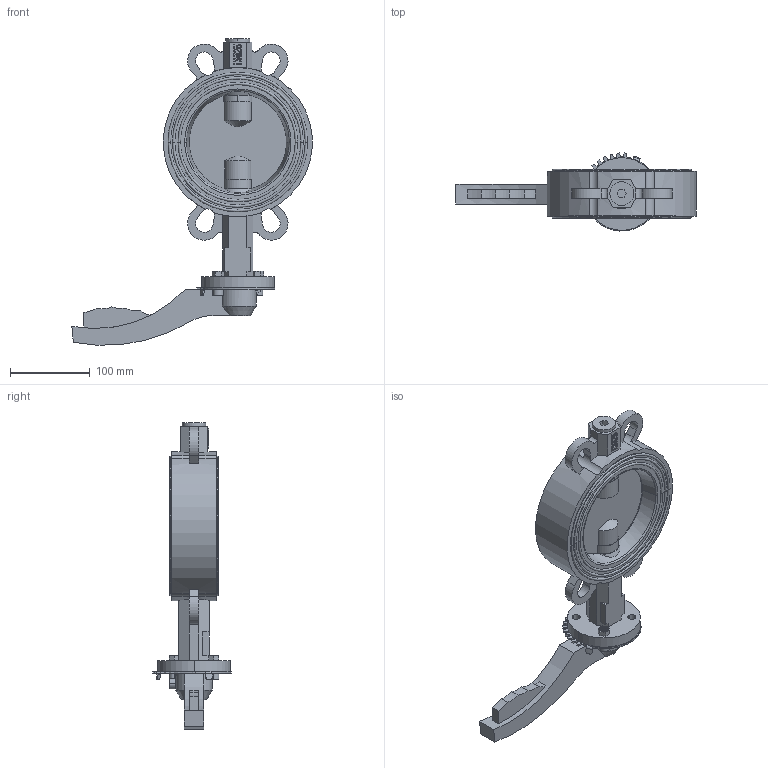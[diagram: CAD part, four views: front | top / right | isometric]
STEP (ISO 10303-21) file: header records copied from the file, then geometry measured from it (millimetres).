
FILE_DESCRIPTION((''),'2;1');
FILE_NAME('SB_RUCHKA_ASM','2023-12-24T',('DIMA'),(''),'PRO/ENGINEER BY PARAMETRIC TECHNOLOGY CORPORATION, 2008020','PRO/ENGINEER BY PARAMETRIC TECHNOLOGY CORPORATION, 2008020','');
FILE_SCHEMA(('CONFIG_CONTROL_DESIGN'));
Length unit declared in the file: millimetre
Products named in the file (18): KORPUS; REZ; DISK; SHTIR_1; ZAGLUSHKA; O-RING; SHTIR_2; SHAIBA_RAZREZ; SHAIBA; KOLCO_30_GOST13943; VTULKA; MANZET_REZ; SB_ASM; PLASTINA; RUCHKA; V-11738-M8X20; G-5915-M8; SB_RUCHKA_ASM
Assembly tree (26 placements, depth 3):
  SB_RUCHKA_ASM
    SB_ASM
      KORPUS
      REZ
      DISK
      SHTIR_1
      ZAGLUSHKA
      O-RING  x2
      SHTIR_2
      SHAIBA_RAZREZ
      SHAIBA  x2
      KOLCO_30_GOST13943
      VTULKA  x5
      MANZET_REZ
    PLASTINA
    RUCHKA
    V-11738-M8X20  x3
    G-5915-M8  x2
Bounding box: 301.15 x 97.83 x 384.09 mm (x, y, z)
Volume: 1543039.9 mm3; surface area: 374182.5 mm2
Topology: 25 solids, 32 shells, 691 faces, 1783 edges, 1170 vertices
Faces by surface type: plane 387, cylinder 217, cone 55, torus 28, bspline 4
Entity records: 20065 total; most frequent: CARTESIAN_POINT 4129, DIRECTION 3397, ORIENTED_EDGE 3164, EDGE_CURVE 1593, AXIS2_PLACEMENT_3D 1213, VERTEX_POINT 1046, VECTOR 971, LINE 971
